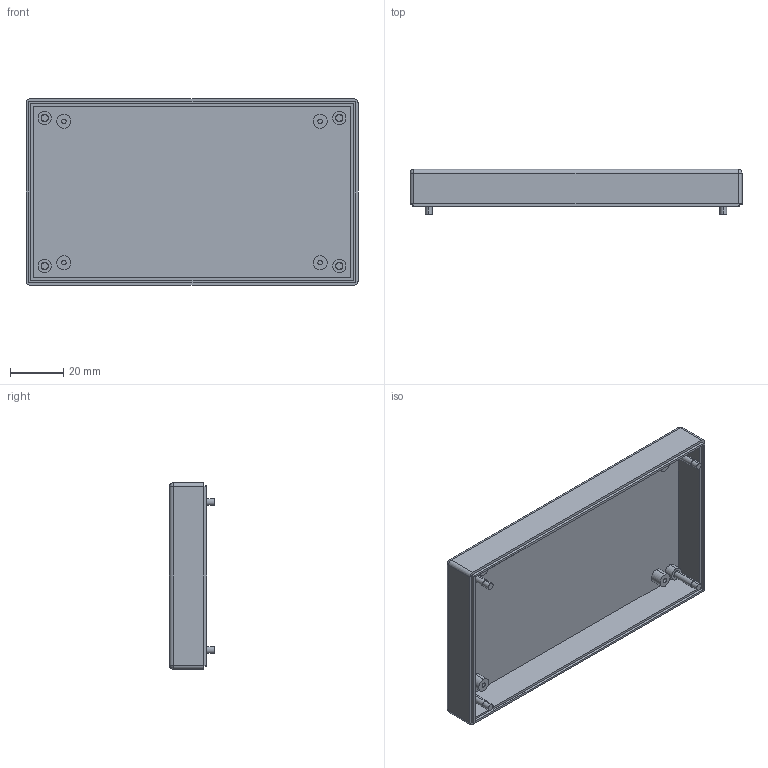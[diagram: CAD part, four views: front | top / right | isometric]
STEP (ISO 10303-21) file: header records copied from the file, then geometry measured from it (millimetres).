
FILE_DESCRIPTION (( 'STEP AP214' ), '1' );
FILE_NAME ('Tapa PP19.STEP', '2021-02-26T08:33:33', ( 'aaa' ), ( '' ), 'SwSTEP 2.0', 'SolidWorks 2014', '' );
FILE_SCHEMA (( 'AUTOMOTIVE_DESIGN' ));
Length unit declared in the file: millimetre
Products named in the file (1): Tapa PP19
Bounding box: 125.1 x 17 x 70.2 mm (x, y, z)
Volume: 25971.9 mm3; surface area: 28386.3 mm2
Topology: 1 solids, 1 shells, 101 faces, 220 edges, 140 vertices
Faces by surface type: cylinder 56, plane 41, sphere 4
Entity records: 2800 total; most frequent: DIRECTION 532, CARTESIAN_POINT 458, ORIENTED_EDGE 432, EDGE_CURVE 216, AXIS2_PLACEMENT_3D 214, VERTEX_POINT 140, EDGE_LOOP 124, CIRCLE 112
